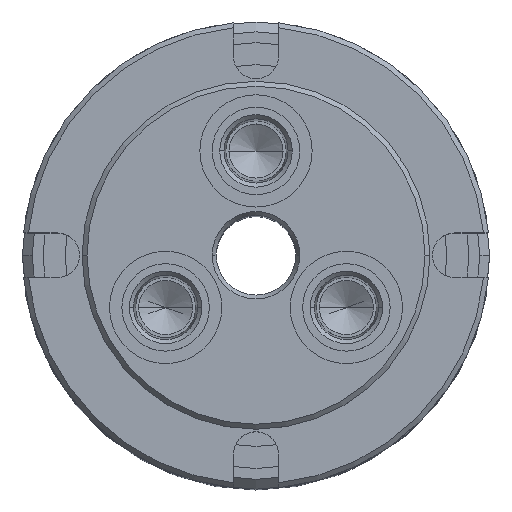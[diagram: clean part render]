
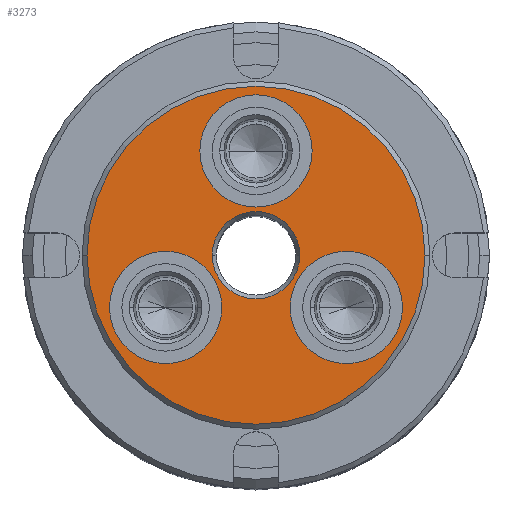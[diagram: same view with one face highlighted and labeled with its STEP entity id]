
A CAD part, top view. The second image highlights one B-rep face of the part: STEP entity #3273.
In plain terms, the highlighted planar face has unit normal (0, 0, 1).
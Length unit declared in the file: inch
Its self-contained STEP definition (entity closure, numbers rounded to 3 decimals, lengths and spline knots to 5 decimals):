
#130 = CARTESIAN_POINT ( 'NONE',  ( 0., 0.656, 0. ) ) ;
#131 = DIRECTION ( 'NONE',  ( 0., 0., 1. ) ) ;
#132 = DIRECTION ( 'NONE',  ( 1., 0., 0. ) ) ;
#312 = CARTESIAN_POINT ( 'NONE',  ( 0., 0., 0. ) ) ;
#313 = DIRECTION ( 'NONE',  ( 0., 0., 1. ) ) ;
#314 = DIRECTION ( 'NONE',  ( -1., 0., 0. ) ) ;
#545 = CARTESIAN_POINT ( 'NONE',  ( 0., 0., 0. ) ) ;
#546 = DIRECTION ( 'NONE',  ( 0., 0., -1. ) ) ;
#547 = DIRECTION ( 'NONE',  ( -1., 0., 0. ) ) ;
#820 = CARTESIAN_POINT ( 'NONE',  ( 0.56811, -0.328, 0. ) ) ;
#821 = DIRECTION ( 'NONE',  ( 0., 0., 1. ) ) ;
#822 = DIRECTION ( 'NONE',  ( -0.5, -0.866, 0. ) ) ;
#985 = CIRCLE ( 'NONE', #1413, 0.353 ) ;
#1312 = CIRCLE ( 'NONE', #1373, 0.353 ) ;
#1373 = AXIS2_PLACEMENT_3D ( 'NONE', #7070, #7071, #7072 ) ;
#1402 = AXIS2_PLACEMENT_3D ( 'NONE', #7032, #7033, #7034 ) ;
#1413 = AXIS2_PLACEMENT_3D ( 'NONE', #4585, #4586, #4587 ) ;
#1907 = VERTEX_POINT ( 'NONE', #6479 ) ;
#1933 = VERTEX_POINT ( 'NONE', #6505 ) ;
#1942 = VERTEX_POINT ( 'NONE', #6514 ) ;
#1969 = VERTEX_POINT ( 'NONE', #6541 ) ;
#1981 = VERTEX_POINT ( 'NONE', #6553 ) ;
#1998 = VERTEX_POINT ( 'NONE', #6570 ) ;
#2014 = VERTEX_POINT ( 'NONE', #6586 ) ;
#2016 = VERTEX_POINT ( 'NONE', #6588 ) ;
#2060 = VERTEX_POINT ( 'NONE', #6632 ) ;
#2155 = VERTEX_POINT ( 'NONE', #6727 ) ;
#2284 = EDGE_LOOP ( 'NONE', ( #6119, #6118 ) ) ;
#2289 = EDGE_LOOP ( 'NONE', ( #6121, #6120 ) ) ;
#2308 = EDGE_LOOP ( 'NONE', ( #6115, #6114 ) ) ;
#2316 = EDGE_LOOP ( 'NONE', ( #6117, #6116 ) ) ;
#2350 = EDGE_LOOP ( 'NONE', ( #6113, #6112 ) ) ;
#2608 = AXIS2_PLACEMENT_3D ( 'NONE', #820, #821, #822 ) ;
#2609 = CIRCLE ( 'NONE', #3161, 0.353 ) ;
#2676 = AXIS2_PLACEMENT_3D ( 'NONE', #3929, #3930, #3931 ) ;
#2793 = AXIS2_PLACEMENT_3D ( 'NONE', #5340, #5341, #5342 ) ;
#2825 = CIRCLE ( 'NONE', #3035, 0.275 ) ;
#2842 = AXIS2_PLACEMENT_3D ( 'NONE', #545, #546, #547 ) ;
#2857 = CIRCLE ( 'NONE', #3063, 1.0625 ) ;
#2932 = CIRCLE ( 'NONE', #2842, 0.275 ) ;
#2946 = AXIS2_PLACEMENT_3D ( 'NONE', #4082, #4083, #4084 ) ;
#2977 = CIRCLE ( 'NONE', #2608, 0.353 ) ;
#3035 = AXIS2_PLACEMENT_3D ( 'NONE', #3961, #3962, #3963 ) ;
#3047 = CIRCLE ( 'NONE', #2676, 0.353 ) ;
#3063 = AXIS2_PLACEMENT_3D ( 'NONE', #312, #313, #314 ) ;
#3161 = AXIS2_PLACEMENT_3D ( 'NONE', #130, #131, #132 ) ;
#3181 = CIRCLE ( 'NONE', #2946, 1.0625 ) ;
#3190 = CIRCLE ( 'NONE', #2793, 0.353 ) ;
#3273 = ADVANCED_FACE ( 'NONE', ( #7014, #7016, #7018, #7020, #7013 ), #7015, .F. ) ;
#3285 = EDGE_CURVE ( 'NONE', #2155, #1998, #1312, .T. ) ;
#3393 = EDGE_CURVE ( 'NONE', #2016, #1933, #985, .T. ) ;
#3542 = EDGE_CURVE ( 'NONE', #1998, #2155, #3190, .T. ) ;
#3682 = EDGE_CURVE ( 'NONE', #2060, #1942, #2609, .T. ) ;
#3711 = EDGE_CURVE ( 'NONE', #2014, #1907, #2857, .T. ) ;
#3756 = EDGE_CURVE ( 'NONE', #1969, #1981, #2932, .T. ) ;
#3815 = EDGE_CURVE ( 'NONE', #1933, #2016, #2977, .T. ) ;
#3837 = EDGE_CURVE ( 'NONE', #1942, #2060, #3047, .T. ) ;
#3842 = EDGE_CURVE ( 'NONE', #1981, #1969, #2825, .T. ) ;
#3869 = EDGE_CURVE ( 'NONE', #1907, #2014, #3181, .T. ) ;
#3929 = CARTESIAN_POINT ( 'NONE',  ( 0., 0.656, 0. ) ) ;
#3930 = DIRECTION ( 'NONE',  ( 0., 0., 1. ) ) ;
#3931 = DIRECTION ( 'NONE',  ( 1., 0., 0. ) ) ;
#3961 = CARTESIAN_POINT ( 'NONE',  ( 0., 0., 0. ) ) ;
#3962 = DIRECTION ( 'NONE',  ( 0., 0., -1. ) ) ;
#3963 = DIRECTION ( 'NONE',  ( -1., 0., 0. ) ) ;
#4082 = CARTESIAN_POINT ( 'NONE',  ( 0., 0., 0. ) ) ;
#4083 = DIRECTION ( 'NONE',  ( 0., 0., 1. ) ) ;
#4084 = DIRECTION ( 'NONE',  ( -1., 0., 0. ) ) ;
#4585 = CARTESIAN_POINT ( 'NONE',  ( 0.56811, -0.328, 0. ) ) ;
#4586 = DIRECTION ( 'NONE',  ( 0., 0., 1. ) ) ;
#4587 = DIRECTION ( 'NONE',  ( -0.5, -0.866, 0. ) ) ;
#5340 = CARTESIAN_POINT ( 'NONE',  ( -0.56811, -0.328, 0. ) ) ;
#5341 = DIRECTION ( 'NONE',  ( 0., 0., 1. ) ) ;
#5342 = DIRECTION ( 'NONE',  ( -0.5, 0.866, 0. ) ) ;
#6112 = ORIENTED_EDGE ( 'NONE', *, *, #3869, .T. ) ;
#6113 = ORIENTED_EDGE ( 'NONE', *, *, #3711, .T. ) ;
#6114 = ORIENTED_EDGE ( 'NONE', *, *, #3682, .F. ) ;
#6115 = ORIENTED_EDGE ( 'NONE', *, *, #3837, .F. ) ;
#6116 = ORIENTED_EDGE ( 'NONE', *, *, #3815, .F. ) ;
#6117 = ORIENTED_EDGE ( 'NONE', *, *, #3393, .F. ) ;
#6118 = ORIENTED_EDGE ( 'NONE', *, *, #3285, .F. ) ;
#6119 = ORIENTED_EDGE ( 'NONE', *, *, #3542, .F. ) ;
#6120 = ORIENTED_EDGE ( 'NONE', *, *, #3756, .T. ) ;
#6121 = ORIENTED_EDGE ( 'NONE', *, *, #3842, .T. ) ;
#6479 = CARTESIAN_POINT ( 'NONE',  ( 1.0625, 0., 0. ) ) ;
#6505 = CARTESIAN_POINT ( 'NONE',  ( 0.21511, -0.328, 0. ) ) ;
#6514 = CARTESIAN_POINT ( 'NONE',  ( 0.353, 0.656, 0. ) ) ;
#6541 = CARTESIAN_POINT ( 'NONE',  ( -0.275, 0., 0. ) ) ;
#6553 = CARTESIAN_POINT ( 'NONE',  ( 0.275, 0., 0. ) ) ;
#6570 = CARTESIAN_POINT ( 'NONE',  ( -0.21511, -0.328, 0. ) ) ;
#6586 = CARTESIAN_POINT ( 'NONE',  ( -1.0625, 0., 0. ) ) ;
#6588 = CARTESIAN_POINT ( 'NONE',  ( 0.92111, -0.328, 0. ) ) ;
#6632 = CARTESIAN_POINT ( 'NONE',  ( -0.353, 0.656, 0. ) ) ;
#6727 = CARTESIAN_POINT ( 'NONE',  ( -0.92111, -0.328, 0. ) ) ;
#7013 = FACE_OUTER_BOUND ( 'NONE', #2350, .T. ) ;
#7014 = FACE_BOUND ( 'NONE', #2289, .T. ) ;
#7015 = PLANE ( 'NONE',  #1402 ) ;
#7016 = FACE_BOUND ( 'NONE', #2284, .T. ) ;
#7018 = FACE_BOUND ( 'NONE', #2316, .T. ) ;
#7020 = FACE_BOUND ( 'NONE', #2308, .T. ) ;
#7032 = CARTESIAN_POINT ( 'NONE',  ( 0., 0., 0. ) ) ;
#7033 = DIRECTION ( 'NONE',  ( 0., 0., -1. ) ) ;
#7034 = DIRECTION ( 'NONE',  ( -1., 0., 0. ) ) ;
#7070 = CARTESIAN_POINT ( 'NONE',  ( -0.56811, -0.328, 0. ) ) ;
#7071 = DIRECTION ( 'NONE',  ( 0., 0., 1. ) ) ;
#7072 = DIRECTION ( 'NONE',  ( -0.5, 0.866, 0. ) ) ;
